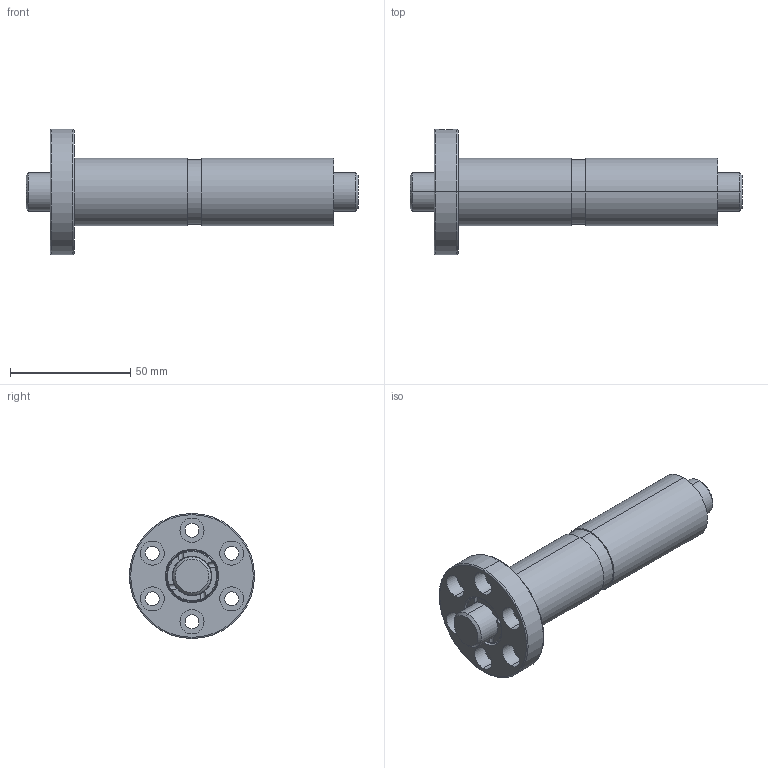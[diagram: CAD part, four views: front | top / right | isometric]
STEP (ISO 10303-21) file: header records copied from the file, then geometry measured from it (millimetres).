
FILE_DESCRIPTION (( 'STEP AP203' ), '1' );
FILE_NAME ('DFZR01610T3N-C.STEP', '2020-06-18T01:18:47', ( '' ), ( '' ), 'SwSTEP 2.0', 'SolidWorks 2013', '' );
FILE_SCHEMA (( 'CONFIG_CONTROL_DESIGN' ));
Length unit declared in the file: millimetre
Products named in the file (1): DFZR01610T3N-C
Bounding box: 138 x 52 x 52 mm (x, y, z)
Volume: 84031.7 mm3; surface area: 31285.7 mm2
Topology: 2 solids, 2 shells, 127 faces, 302 edges, 192 vertices
Faces by surface type: cylinder 72, plane 29, torus 22, cone 4
Entity records: 4183 total; most frequent: CARTESIAN_POINT 1058, DIRECTION 688, ORIENTED_EDGE 604, AXIS2_PLACEMENT_3D 304, EDGE_CURVE 302, VERTEX_POINT 192, CIRCLE 176, EDGE_LOOP 158
